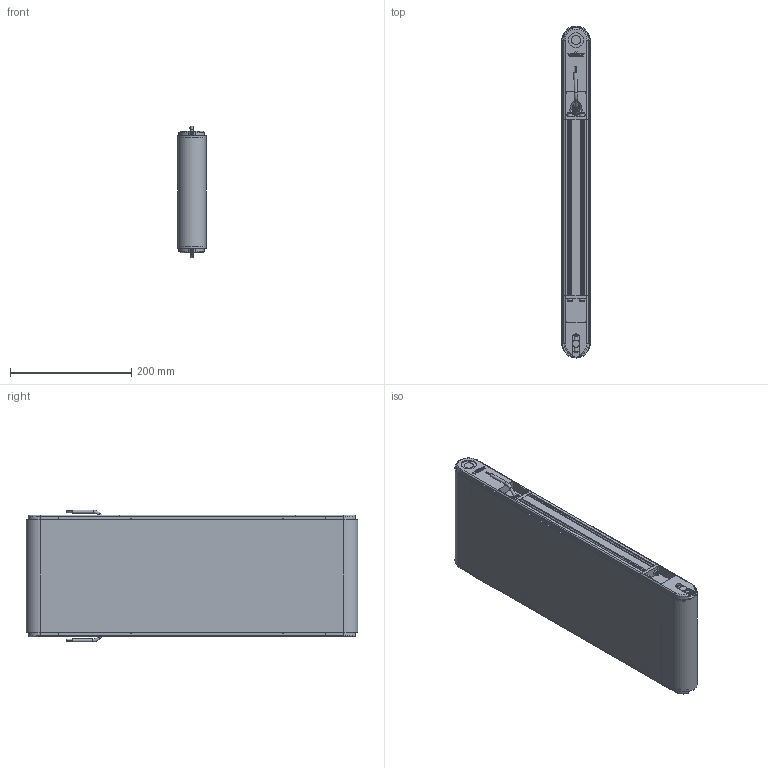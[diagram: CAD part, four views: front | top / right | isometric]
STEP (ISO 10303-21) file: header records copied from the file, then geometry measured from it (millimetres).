
FILE_DESCRIPTION(/* description */ (''),/* implementation_level */ '2;1');
FILE_NAME(/* name */ 'G:\DATEN\CAD\Förderband\Marketing\3D-Modelle (Standard)\FR-40-200\FR-40-200-500-K.stp',/* time_stamp */ '2019-05-08T09:19:49+02:00',/* author */ ('melanie.ochs'),/* organization */ (''),/* preprocessor_version */ 'ST-DEVELOPER v17',/* originating_system */ 'Autodesk Inventor 2019',/* authorisation */ '');
FILE_SCHEMA (('CONFIG_CONTROL_DESIGN'));
Length unit declared in the file: centimetre
Products named in the file (1): FR-40-200-500-K
Bounding box: 46.6 x 546.6 x 217.07 mm (x, y, z)
Volume: 2349906.2 mm3; surface area: 722173.8 mm2
Topology: 7 solids, 25 shells, 1124 faces, 3029 edges, 2003 vertices
Faces by surface type: plane 559, cylinder 328, bspline 124, cone 75, torus 38
Full cylindrical faces by diameter (mm): 2 x4, 4 x6, 4.3 x4, 4.917 x1, 5 x14, 5.5 x8, 6 x4, 6.647 x2, 8 x4, 8.3 x4, 8.5 x8, 8.773 x2, 10 x2, 11 x2, 12 x3, 15 x2, 20 x4, 25 x2, 28 x4
Entity records: 38076 total; most frequent: CARTESIAN_POINT 9220, ORIENTED_EDGE 6034, DIRECTION 5475, EDGE_CURVE 3017, VERTEX_POINT 2003, AXIS2_PLACEMENT_3D 1935, LINE 1605, VECTOR 1605
